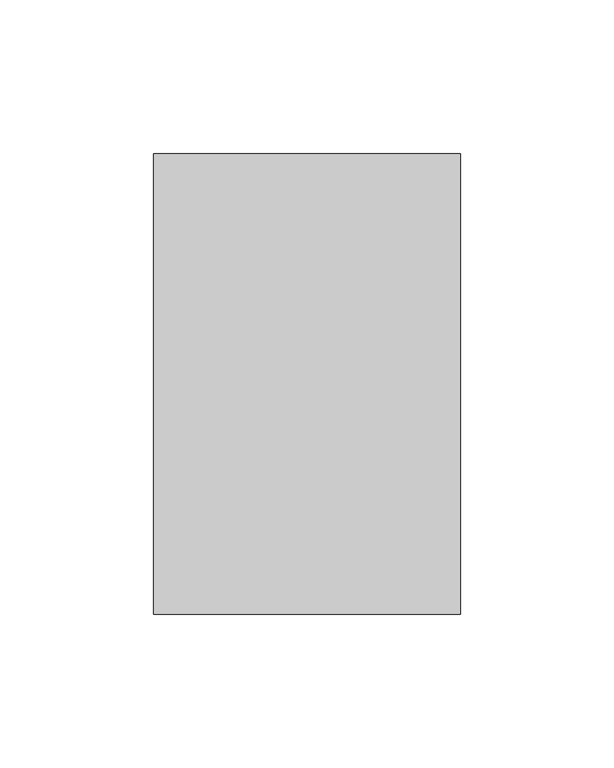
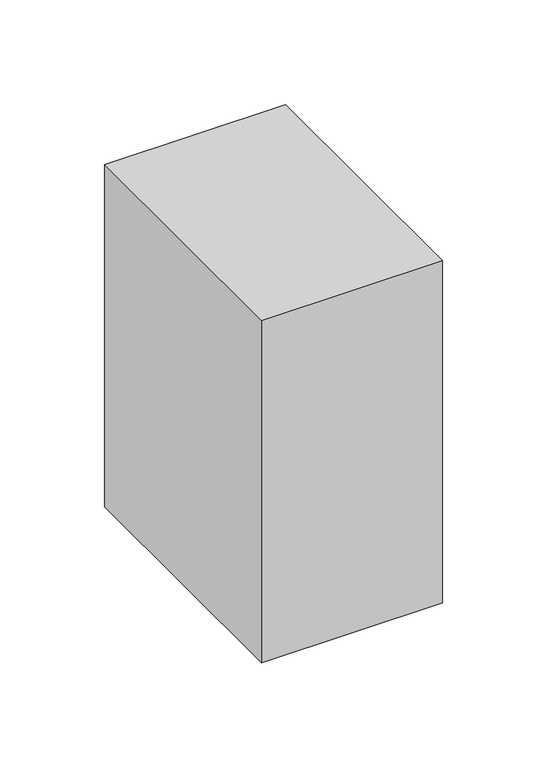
"""IFC4 building model written with IfcOpenShell, lengths in millimetres: member geometry, 矩形竖梃 : 教学楼 – 矩形竖梃 – 100x150mm."""

from ifc_helpers import new_model, si_unit, frame, origin, place, context, project, spatial, polyline, outline, extrude, source, transform, mapped, element, save


def member_b6ae775c(model_context):
    return source(origin(), model_context, "Body", "SweptSolid", [
        extrude(outline(polyline([(0.0, 75.0), (0.0, -75.0), (-100.0, -75.0), (-100.0, 75.0), (0.0, 75.0)])), frame((0.0, 0.0, -200.0), z_axis=(0.0, 0.0, 1.0), x_axis=(1.0, 0.0, 0.0)), (0.0, 0.0, 1.0), 200.0),
    ])


if __name__ == "__main__":
    model = new_model("IFC4")
    model_context = context("Model", 3, world=origin())
    ifc_project = project(units=[si_unit("LENGTHUNIT", "METRE", prefix="MILLI")], contexts=[model_context])
    site = spatial("IfcSite", under=ifc_project)
    building = spatial("IfcBuilding", under=site)
    placement = place(None, origin())
    member_shape = member_b6ae775c(model_context)
    element("IfcMember", 1, ObjectType="矩形竖梃 : 教学楼 – 矩形竖梃 – 100x150mm", at=placement, inside=building, context=model_context, shape_type="MappedRepresentation", body=[
        mapped(member_shape, transform((0.0, 0.0, 0.0), x_axis=(1.0, 0.0, 0.0), y_axis=(0.0, 1.0, 0.0), z_axis=(0.0, 0.0, 1.0))),
    ])
    save(model, "model.ifc")
